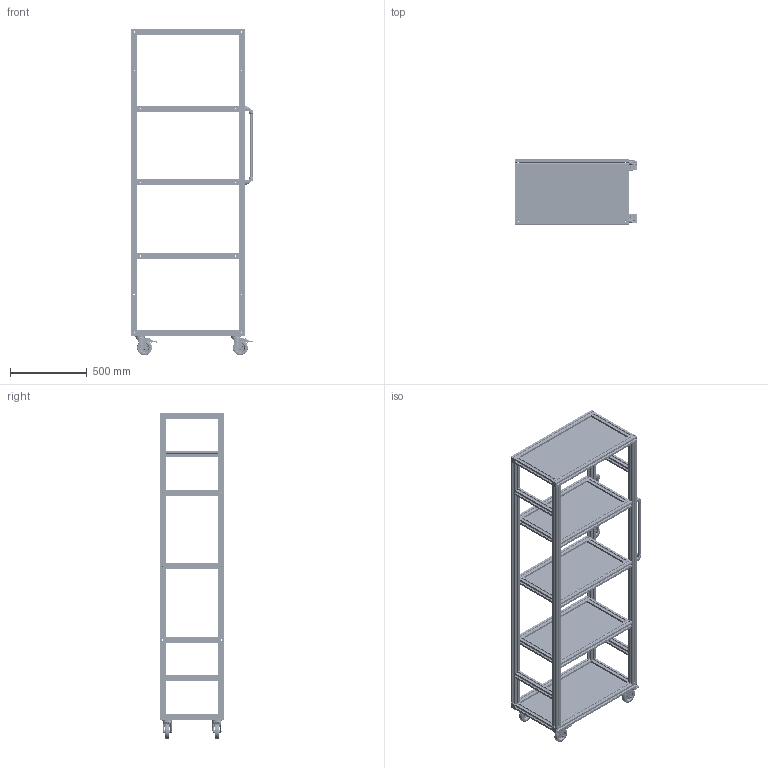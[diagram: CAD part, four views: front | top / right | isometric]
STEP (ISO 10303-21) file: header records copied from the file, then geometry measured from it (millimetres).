
FILE_DESCRIPTION(('STEP AP203'), '1');
FILE_NAME('ÀÌ04040.07042001 _ Ñòîéêà äëÿ èíñòðóìåíòà', '', ('UNSPECIFIED'), ('UNSPECIFIED'), 'C3D Converter', 'C3D Toolkit', '');
FILE_SCHEMA(('CONFIG_CONTROL_DESIGN'));
Length unit declared in the file: millimetre
Products named in the file (39): АМ04040.07042001; 3; 536302; 531132; Shaft CB-CR 100-M8-30-1239; SRP/SL (100-3-95x80-30127)-b; 1003095x801279-bf; Nut M8(100-30-12-45GREY); Bolt M8(12-100-30-55GREY)
Assembly tree (54 placements, depth 3):
  АМ04040.07042001
    (unnamed)  x4
    (unnamed)  x4
    3  x8
    536302  x4
      531132
      Shaft CB-CR 100-M8-30-1239
      SRP/SL (100-3-95x80-30127)-b
      1003095x801279-bf
      Nut M8(100-30-12-45GREY)
      Bolt M8(12-100-30-55GREY)
    (unnamed)
    (unnamed)
    (unnamed)
    (unnamed)
    (unnamed)
    (unnamed)
    (unnamed)
    (unnamed)
    (unnamed)
    (unnamed)
    (unnamed)
    (unnamed)
    (unnamed)
    (unnamed)
    (unnamed)
    (unnamed)
    (unnamed)
    (unnamed)
    (unnamed)
    (unnamed)
    (unnamed)
    (unnamed)
    (unnamed)
    (unnamed)
    (unnamed)
    (unnamed)
    (unnamed)
    (unnamed)
Bounding box: 799.5 x 420 x 2126 mm (x, y, z)
Volume: 25143055.8 mm3; surface area: 11987408.1 mm2
Topology: 75 solids, 75 shells, 9898 faces, 29056 edges, 19200 vertices
Faces by surface type: plane 4878, cylinder 4248, cone 240, torus 236, extrusion 180, bspline 72, sphere 44
Full cylindrical faces by diameter (mm): 4 x8, 5 x4, 6.5 x8, 6.647 x4, 8 x12, 8.2 x8, 8.5 x4, 10 x96, 11.47 x4, 11.999 x4, 12 x4, 13.999 x8, 14 x4, 16 x2, 20 x2, 20.1 x4, 21.999 x8, 22.833 x4, 29 x4, 46 x4, 52 x4, 54 x4, 59.22 x4, 59.58 x4, 61.999 x8, 62.9 x4, 71.999 x8
Entity records: 327089 total; most frequent: CARTESIAN_POINT 59921, ORIENTED_EDGE 45020, DIRECTION 42584, EDGE_CURVE 22510, VERTEX_POINT 15096, AXIS2_PLACEMENT_3D 14263, VECTOR 14058, LINE 14013
